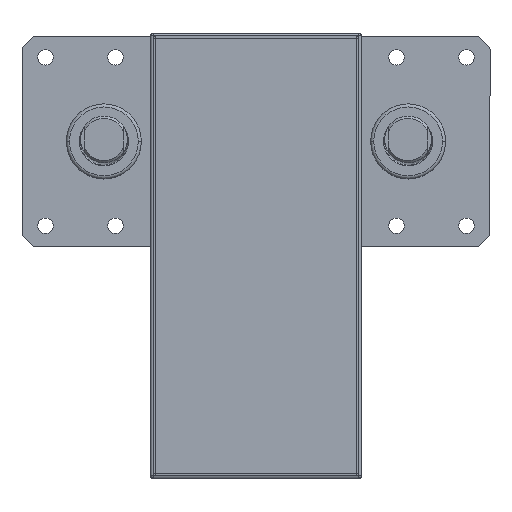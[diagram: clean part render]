
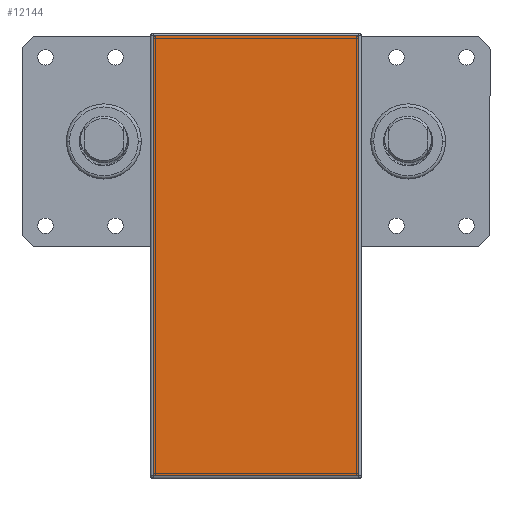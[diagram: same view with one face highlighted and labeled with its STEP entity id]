
A CAD part, top view. The second image highlights one B-rep face of the part: STEP entity #12144.
In plain terms, the highlighted planar face has unit normal (0, 0, 1).
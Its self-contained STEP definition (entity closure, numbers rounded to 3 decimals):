
#292 = EDGE_LOOP ( 'NONE', ( #5886, #37552, #32567, #6640 ) ) ;
#632 = DIRECTION ( 'NONE',  ( 1., 0., 0. ) ) ;
#969 = LINE ( 'NONE', #36892, #35320 ) ;
#2591 = VECTOR ( 'NONE', #21755, 1000. ) ;
#3476 = CARTESIAN_POINT ( 'NONE',  ( -44., 44., 621. ) ) ;
#5886 = ORIENTED_EDGE ( 'NONE', *, *, #7434, .T. ) ;
#6640 = ORIENTED_EDGE ( 'NONE', *, *, #27281, .T. ) ;
#6848 = DIRECTION ( 'NONE',  ( -1., 0., 0. ) ) ;
#7084 = VERTEX_POINT ( 'NONE', #30338 ) ;
#7434 = EDGE_CURVE ( 'NONE', #10666, #10885, #969, .T. ) ;
#8126 = CARTESIAN_POINT ( 'NONE',  ( -44., 44., 621. ) ) ;
#10030 = LINE ( 'NONE', #33783, #35520 ) ;
#10666 = VERTEX_POINT ( 'NONE', #8126 ) ;
#10885 = VERTEX_POINT ( 'NONE', #26124 ) ;
#12144 = ADVANCED_FACE ( 'NONE', ( #35469 ), #40298, .T. ) ;
#16935 = DIRECTION ( 'NONE',  ( 0., -1., 0. ) ) ;
#17989 = CARTESIAN_POINT ( 'NONE',  ( 44., -144., 621. ) ) ;
#18383 = AXIS2_PLACEMENT_3D ( 'NONE', #33722, #40443, #20512 ) ;
#20512 = DIRECTION ( 'NONE',  ( 1., 0., 0. ) ) ;
#21755 = DIRECTION ( 'NONE',  ( 0., 1., 0. ) ) ;
#22320 = LINE ( 'NONE', #3476, #30119 ) ;
#23274 = VERTEX_POINT ( 'NONE', #17989 ) ;
#26124 = CARTESIAN_POINT ( 'NONE',  ( -44., -144., 621. ) ) ;
#27281 = EDGE_CURVE ( 'NONE', #7084, #10666, #22320, .T. ) ;
#30119 = VECTOR ( 'NONE', #6848, 1000. ) ;
#30338 = CARTESIAN_POINT ( 'NONE',  ( 44., 44., 621. ) ) ;
#32567 = ORIENTED_EDGE ( 'NONE', *, *, #42275, .T. ) ;
#33398 = EDGE_CURVE ( 'NONE', #10885, #23274, #10030, .T. ) ;
#33722 = CARTESIAN_POINT ( 'NONE',  ( -44., -144., 621. ) ) ;
#33783 = CARTESIAN_POINT ( 'NONE',  ( 44., -144., 621. ) ) ;
#35320 = VECTOR ( 'NONE', #16935, 1000. ) ;
#35469 = FACE_OUTER_BOUND ( 'NONE', #292, .T. ) ;
#35520 = VECTOR ( 'NONE', #632, 1000. ) ;
#36892 = CARTESIAN_POINT ( 'NONE',  ( -44., -144., 621. ) ) ;
#37552 = ORIENTED_EDGE ( 'NONE', *, *, #33398, .T. ) ;
#37992 = LINE ( 'NONE', #38348, #2591 ) ;
#38348 = CARTESIAN_POINT ( 'NONE',  ( 44., 44., 621. ) ) ;
#40298 = PLANE ( 'NONE',  #18383 ) ;
#40443 = DIRECTION ( 'NONE',  ( 0., 0., 1. ) ) ;
#42275 = EDGE_CURVE ( 'NONE', #23274, #7084, #37992, .T. ) ;
